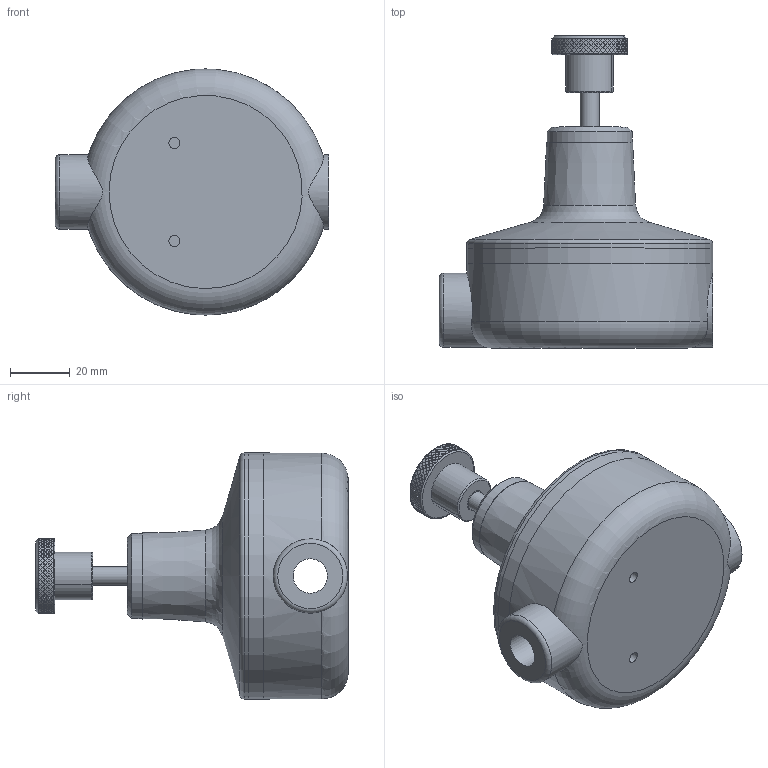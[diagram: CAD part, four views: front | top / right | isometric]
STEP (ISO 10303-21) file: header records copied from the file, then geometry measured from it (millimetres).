
FILE_DESCRIPTION((''),'2;1');
FILE_NAME('C:\Users\jjennings\Documents\Low Pressure Regulator\P912 Modification\LPR2 External.stp','2010-03-12T16:02:01',('jjennings'),(''),'Autodesk Inventor 2010','Autodesk Inventor 2010','');
FILE_SCHEMA(('AUTOMOTIVE_DESIGN { 1 0 10303 214 1 1 1 1 }'));
Length unit declared in the file: inch
Products named in the file (10): master assembly (LevelofDetail1); Top cap assembly; P912 top cap; knob assembly; stud; spring retainer; 6121K14 28 tpi knob; threaded top cap; base; spacer
Assembly tree (9 placements, depth 4):
  master assembly (LevelofDetail1)
    Top cap assembly
      P912 top cap
      knob assembly
        stud
        spring retainer
        6121K14 28 tpi knob
      threaded top cap
    base
    spacer
Bounding box: 91.69 x 104.79 x 82.55 mm (x, y, z)
Volume: 201084.6 mm3; surface area: 56267.8 mm2
Topology: 8 solids, 8 shells, 1921 faces, 4915 edges, 3179 vertices
Faces by surface type: plane 1370, cylinder 470, cone 69, torus 7, bspline 5
Full cylindrical faces by diameter (mm): 3.683 x2, 6.35 x1, 13.106 x1, 19.202 x1, 22.86 x1, 24.892 x2, 24.994 x1, 28.575 x1, 75.711 x1, 82.55 x3
Entity records: 59190 total; most frequent: CARTESIAN_POINT 20671, ORIENTED_EDGE 9718, DIRECTION 6118, EDGE_CURVE 4859, VERTEX_POINT 3129, AXIS2_PLACEMENT_3D 2264, EDGE_LOOP 2104, FACE_OUTER_BOUND 1921
